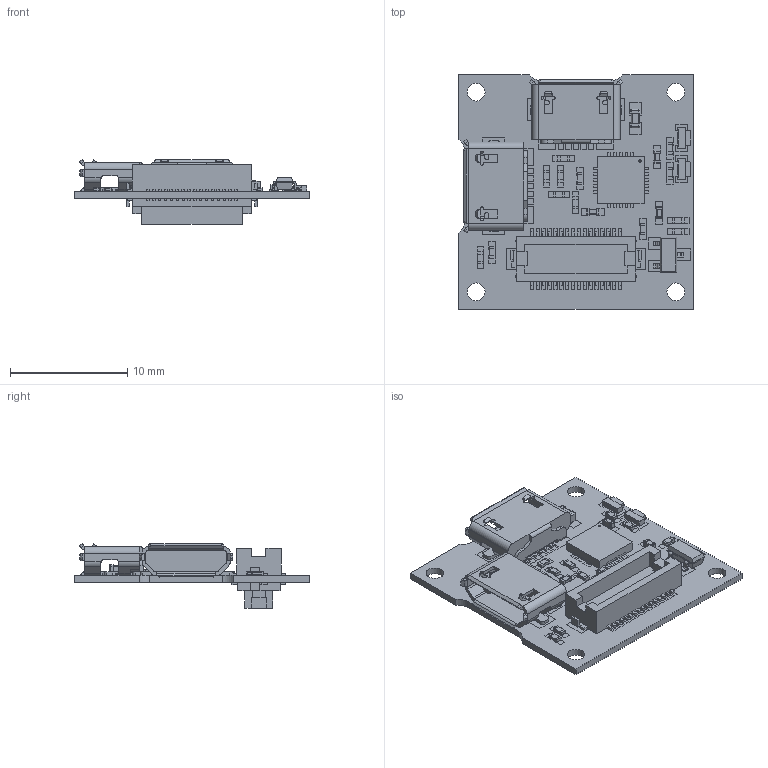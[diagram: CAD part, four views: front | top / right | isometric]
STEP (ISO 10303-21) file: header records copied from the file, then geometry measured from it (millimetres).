
FILE_DESCRIPTION(('FreeCAD Model'),'2;1');
FILE_NAME('/home/devy/MEGA/TinyCircuits/Assets/BoardsANDBoardModels_2/Shields/TinyCircuits-TinyShield-USB_ICP-ASD2101/cad/TinyShield_USBICP_ASD2101_REV6-STEP.step','2020-07-22T15:24:02',('Author'),(''), 'Open CASCADE STEP processor 7.4','FreeCAD','Unknown');
FILE_SCHEMA(('AUTOMOTIVE_DESIGN { 1 0 10303 214 1 1 1 1 }'));
Products named in the file (1): TinyShield_USBICP_ASD2101_REV6-STEP
Bounding box: 20 x 20 x 5.5 mm (x, y, z)
Volume: 742.5 mm3; surface area: 3319.2 mm2
Topology: 432 solids, 432 shells, 4387 faces, 11169 edges, 8460 vertices
Faces by surface type: plane 4007, cylinder 348, sphere 32
Full cylindrical faces by diameter (mm): 0.5 x4, 0.652 x8, 1.502 x8
Entity records: 299284 total; most frequent: CARTESIAN_POINT 49049, DIRECTION 40625, LINE 29474, VECTOR 29474, ORIENTED_EDGE 20482, PCURVE 20482, DEFINITIONAL_REPRESENTATION 20482, EDGE_CURVE 10241
